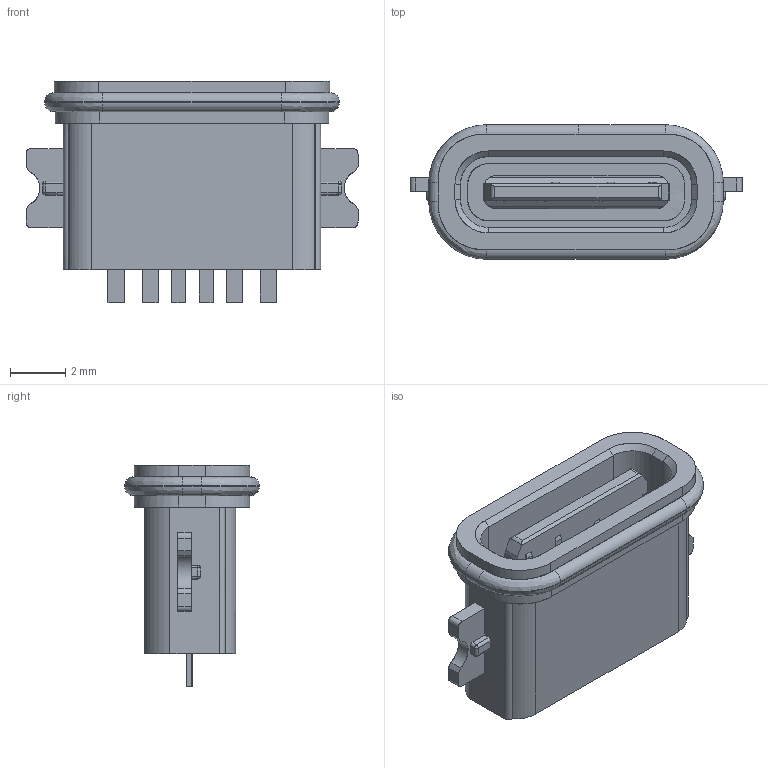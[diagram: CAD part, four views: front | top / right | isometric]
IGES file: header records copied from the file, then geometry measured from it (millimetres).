
Start section: SolidWorks IGES file using analytic representation for surfaces
Global section: file name: Z:\规格书系列\A品赞TYPE C\母座系列\GT-USB-7008\GT-USB-7008B\GT-USB-7008B.IGS; native system: SolidWorks 2021; preprocessor: SolidWorks 2021; author: Lenovo; date: 221230.170313; units: millimetre
Bounding box: 11.99 x 4.86 x 7.98 mm (x, y, z)
Surface area: 549.2 mm2 (no closed solid volume)
Topology: 0 solids, 0 shells, 412 faces, 2451 edges, 2443 vertices
Faces by surface type: bspline 276, revolution 136
